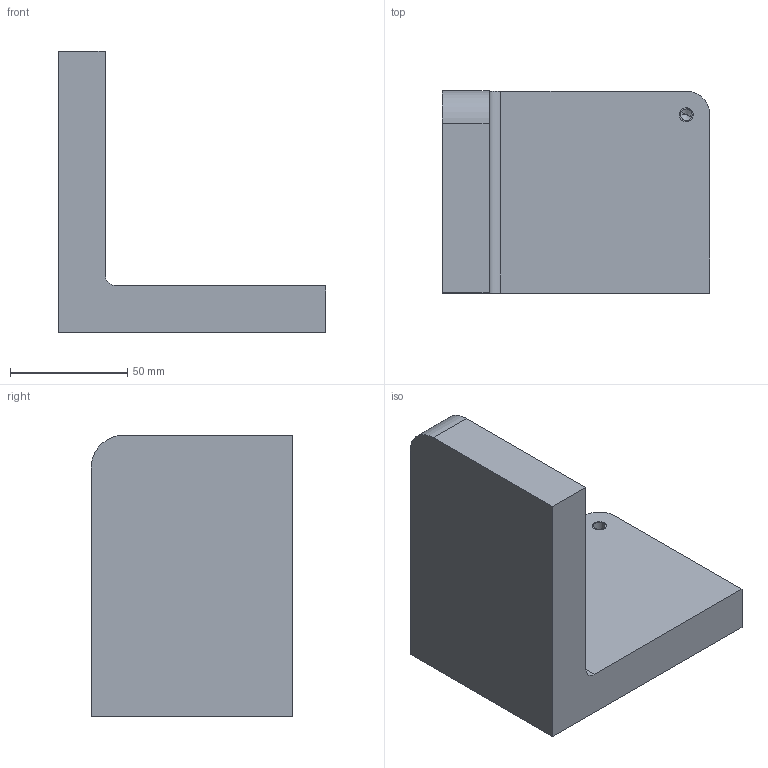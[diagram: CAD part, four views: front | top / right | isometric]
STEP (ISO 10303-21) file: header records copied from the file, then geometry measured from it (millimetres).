
FILE_DESCRIPTION(('CATIA V5 STEP Exchange'),'2;1');
FILE_NAME('C:\_Andres\UNIVERSIDAD\IQS\ASIGNATURAS\DAO\EXF\EXF-16172c\2inicio\Homs_Menis_Ej01_v14.stp','2017-03-05T15:11:07+00:00',('none'),('none'),'CATIA Version 5-6 Release 2014 SP1 HF18','CATIA V5 STEP AP203','none');
FILE_SCHEMA(('CONFIG_CONTROL_DESIGN'));
Length unit declared in the file: millimetre
Products named in the file (1): Homs_Menis_Ej01_v14
Bounding box: 114 x 86 x 120 mm (x, y, z)
Volume: 366958.2 mm3; surface area: 48777.4 mm2
Topology: 1 solids, 2 shells, 17 faces, 43 edges, 27 vertices
Faces by surface type: plane 8, cylinder 7, cone 2
Entity records: 513 total; most frequent: CARTESIAN_POINT 83, ORIENTED_EDGE 78, DIRECTION 69, EDGE_CURVE 41, AXIS2_PLACEMENT_3D 29, VECTOR 27, LINE 27, VERTEX_POINT 27
